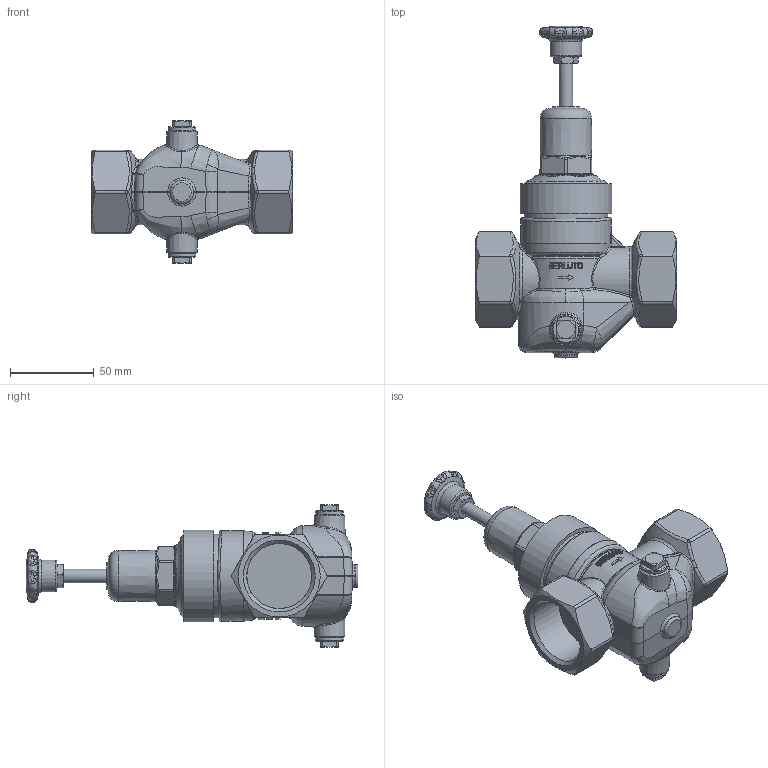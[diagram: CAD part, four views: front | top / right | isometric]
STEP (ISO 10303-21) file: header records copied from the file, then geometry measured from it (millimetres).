
FILE_DESCRIPTION(/* description */ (''),/* implementation_level */ '2;1');
FILE_NAME(/* name */ 'U:/AirCom-Produktdokumentation/Druckregler/RWI/Zeichnungen/CAD-Aircom/3D/B-RWI-10F.step',/* time_stamp */ '2022-07-01T15:55:14+02:00',/* author */ (''),/* organization */ (''),/* preprocessor_version */ 'ST-DEVELOPER v19',/* originating_system */ 'Autodesk Translation Framework v11.7.0.108',/* authorisation */ '');
FILE_SCHEMA (('AUTOMOTIVE_DESIGN { 1 0 10303 214 3 1 1 }'));
Products named in the file (1): 032405_step
Bounding box: 120 x 198.17 x 84.98 mm (x, y, z)
Volume: 373237.1 mm3; surface area: 50439.2 mm2
Topology: 1 solids, 1 shells, 758 faces, 1931 edges, 1209 vertices
Faces by surface type: bspline 323, plane 226, cylinder 120, cone 46, torus 26, sphere 17
Full cylindrical faces by diameter (mm): 3 x1, 8 x1, 14 x1, 16.5 x2, 19 x1, 38.728 x2, 38.952 x2, 50 x2, 54 x1, 55 x1
Entity records: 66538 total; most frequent: CARTESIAN_POINT 49356, ORIENTED_EDGE 3846, DIRECTION 2726, EDGE_CURVE 1923, VERTEX_POINT 1209, AXIS2_PLACEMENT_3D 1072, EDGE_LOOP 800, STYLED_ITEM 759
